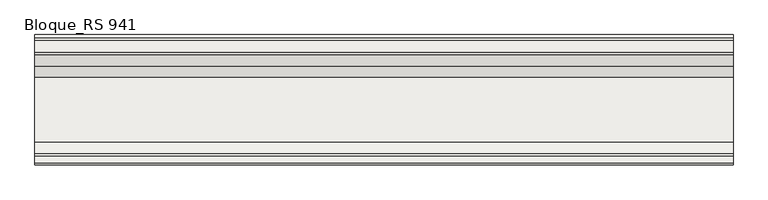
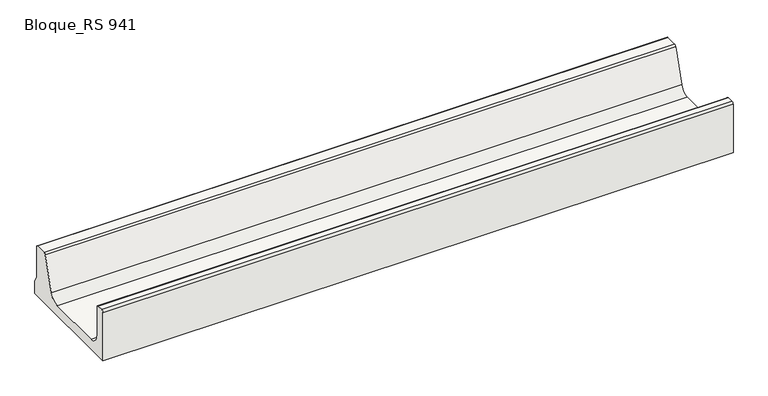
"""IFC4 building model written with IfcOpenShell, lengths in millimetres: slab geometry, ROSA GRES_RS 941 : Bloque_RS 941."""

from ifc_helpers import new_model, si_unit, point, frame, frame_2d, origin, place, context, project, spatial, polyline, circle_curve, trimmed, segment, composite_curve, outline, extrude, source, transform, mapped, element, save


def bloque_rs_941_9b4ddc65(model_context):
    return source(origin(), model_context, "Body", "SweptSolid", [
        extrude(outline(composite_curve([segment(polyline([(-290.7950654, 126.0), (-276.7901448, 126.0)]), True, "CONTINUOUS"), segment(trimmed(circle_curve(frame_2d((-276.7873115, 121.0029619)), 4.9970389), [point((-276.7901448, 126.0))], [point((-271.7950654, 121.221769))], False, "CARTESIAN"), True, "CONTINUOUS"), segment(polyline([(-271.7950654, 121.221769), (-271.7950654, 50.0)]), True, "CONTINUOUS"), segment(trimmed(circle_curve(frame_2d((-246.8549987, 49.9398968)), 24.9401391), [point((-271.7950654, 50.0))], [point((-246.7450654, 25.0))], True, "CARTESIAN"), True, "CONTINUOUS"), segment(polyline([(-246.7450654, 25.0), (-107.8238571, 25.0)]), True, "CONTINUOUS"), segment(trimmed(circle_curve(frame_2d((-107.6378199, 49.7467022)), 24.7474015), [point((-107.8238571, 25.0))], [point((-83.9689438, 42.5204875))], True, "CARTESIAN"), True, "CONTINUOUS"), segment(polyline([(-83.9689438, 42.5204875), (-58.8933079, 122.4959025)]), True, "CONTINUOUS"), segment(trimmed(circle_curve(frame_2d((-54.1351224, 121.0174239)), 4.9825925), [point((-58.8933079, 122.4959025))], [point((-54.1223252, 126.0))], False, "CARTESIAN"), True, "CONTINUOUS"), segment(polyline([(-54.1223252, 126.0), (-27.7946272, 126.0)]), True, "CONTINUOUS"), segment(trimmed(circle_curve(frame_2d((-27.7946272, 121.0)), 5.0), [point((-27.7946272, 126.0))], [point((-22.7946272, 121.0))], False, "CARTESIAN"), True, "CONTINUOUS"), segment(polyline([(-22.7946272, 121.0), (-22.7946272, 44.0), (-15.7946269, 32.0012714), (-15.7946269, 0.0), (-295.7950654, 0.0), (-295.7950654, 121.0)]), True, "CONTINUOUS"), segment(trimmed(circle_curve(frame_2d((-290.8048832, 121.0098178)), 4.9901918), [point((-295.7950654, 121.0))], [point((-290.7950654, 126.0))], False, "CARTESIAN"), True, "CONTINUOUS")], self_intersect=False)), frame((0.0, 0.0, 0.0), z_axis=(1.0, 0.0, 0.0), x_axis=(0.0, 1.0, 0.0)), (0.0, 0.0, 1.0), 1497.5),
    ])


if __name__ == "__main__":
    model = new_model("IFC4")
    model_context = context("Model", 3, world=origin())
    ifc_project = project(units=[si_unit("LENGTHUNIT", "METRE", prefix="MILLI")], contexts=[model_context])
    site = spatial("IfcSite", under=ifc_project)
    building = spatial("IfcBuilding", under=site)
    placement = place(None, origin())
    bloque_rs_941_shape = bloque_rs_941_9b4ddc65(model_context)
    element("IfcSlab", 1, ObjectType="ROSA GRES_RS 941 : Bloque_RS 941", at=placement, inside=building, context=model_context, shape_type="MappedRepresentation", body=[
        mapped(bloque_rs_941_shape, transform((0.0, 0.0, 0.0), x_axis=(1.0, 0.0, 0.0), y_axis=(0.0, 1.0, 0.0), z_axis=(0.0, 0.0, 1.0))),
    ])
    save(model, "model.ifc")
